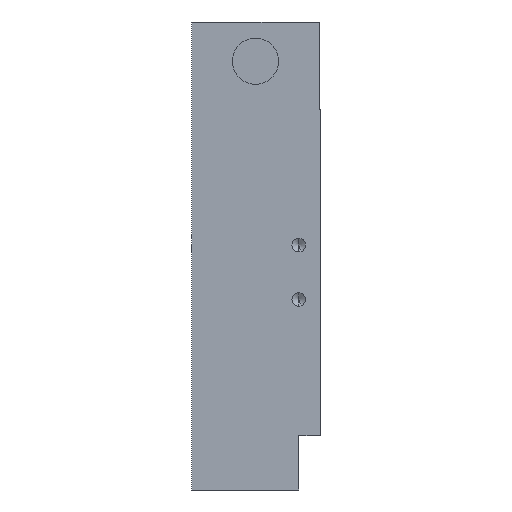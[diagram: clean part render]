
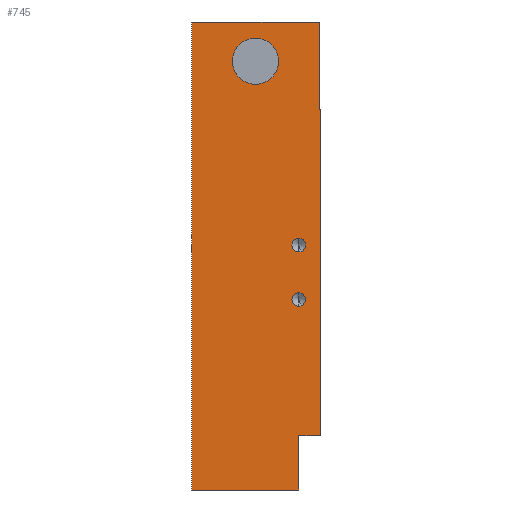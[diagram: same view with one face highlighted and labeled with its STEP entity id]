
A CAD part, left-side view. The second image highlights one B-rep face of the part: STEP entity #745.
In plain terms, the highlighted planar face has unit normal (-1, 0, 0).
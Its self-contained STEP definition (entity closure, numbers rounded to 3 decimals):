
#1 = PLANE ( 'NONE',  #821 ) ;
#7 = ORIENTED_EDGE ( 'NONE', *, *, #969, .F. ) ;
#19 = CARTESIAN_POINT ( 'NONE',  ( -59., 0.2, 27. ) ) ;
#24 = VERTEX_POINT ( 'NONE', #1138 ) ;
#28 = CARTESIAN_POINT ( 'NONE',  ( -59., 4., -9.25 ) ) ;
#39 = VERTEX_POINT ( 'NONE', #267 ) ;
#47 = CARTESIAN_POINT ( 'NONE',  ( -59., 23.7, -43. ) ) ;
#57 = VERTEX_POINT ( 'NONE', #301 ) ;
#77 = LINE ( 'NONE', #1443, #944 ) ;
#78 = VERTEX_POINT ( 'NONE', #908 ) ;
#93 = CARTESIAN_POINT ( 'NONE',  ( -59., 4., -8. ) ) ;
#100 = CARTESIAN_POINT ( 'NONE',  ( -59., 0., -33. ) ) ;
#112 = EDGE_CURVE ( 'NONE', #729, #172, #1550, .T. ) ;
#113 = DIRECTION ( 'NONE',  ( 0., -1., 0. ) ) ;
#137 = ORIENTED_EDGE ( 'NONE', *, *, #804, .F. ) ;
#144 = EDGE_CURVE ( 'NONE', #24, #820, #936, .T. ) ;
#169 = CARTESIAN_POINT ( 'NONE',  ( -59., 23.7, 43. ) ) ;
#172 = VERTEX_POINT ( 'NONE', #672 ) ;
#187 = DIRECTION ( 'NONE',  ( 0., 0., 1. ) ) ;
#215 = DIRECTION ( 'NONE',  ( -1., 0., 0. ) ) ;
#240 = ORIENTED_EDGE ( 'NONE', *, *, #1024, .F. ) ;
#267 = CARTESIAN_POINT ( 'NONE',  ( -59., 0.2, 43. ) ) ;
#293 = LINE ( 'NONE', #47, #1063 ) ;
#294 = CARTESIAN_POINT ( 'NONE',  ( -59., 23.7, -43. ) ) ;
#301 = CARTESIAN_POINT ( 'NONE',  ( -59., 11.95, 40.05 ) ) ;
#306 = FACE_BOUND ( 'NONE', #310, .T. ) ;
#310 = EDGE_LOOP ( 'NONE', ( #462, #240 ) ) ;
#350 = CARTESIAN_POINT ( 'NONE',  ( -59., 11.95, 35.8 ) ) ;
#354 = EDGE_LOOP ( 'NONE', ( #1270, #1517 ) ) ;
#359 = CARTESIAN_POINT ( 'NONE',  ( -59., 23.7, 43. ) ) ;
#364 = EDGE_CURVE ( 'NONE', #24, #1190, #560, .T. ) ;
#378 = CARTESIAN_POINT ( 'NONE',  ( -59., 4., 0.75 ) ) ;
#387 = ORIENTED_EDGE ( 'NONE', *, *, #402, .F. ) ;
#395 = ORIENTED_EDGE ( 'NONE', *, *, #144, .F. ) ;
#397 = EDGE_CURVE ( 'NONE', #1436, #956, #984, .T. ) ;
#402 = EDGE_CURVE ( 'NONE', #39, #729, #77, .T. ) ;
#414 = CARTESIAN_POINT ( 'NONE',  ( -59., 0.2, 27. ) ) ;
#456 = DIRECTION ( 'NONE',  ( 0., 0., -1. ) ) ;
#462 = ORIENTED_EDGE ( 'NONE', *, *, #569, .F. ) ;
#471 = EDGE_LOOP ( 'NONE', ( #395, #1289, #1261, #1249, #387, #602, #137, #1188 ) ) ;
#518 = ORIENTED_EDGE ( 'NONE', *, *, #1104, .F. ) ;
#537 = DIRECTION ( 'NONE',  ( 0., -1., 0. ) ) ;
#560 = LINE ( 'NONE', #1308, #1246 ) ;
#569 = EDGE_CURVE ( 'NONE', #743, #57, #1224, .T. ) ;
#594 = VERTEX_POINT ( 'NONE', #1220 ) ;
#598 = DIRECTION ( 'NONE',  ( -1., 0., 0. ) ) ;
#602 = ORIENTED_EDGE ( 'NONE', *, *, #616, .F. ) ;
#616 = EDGE_CURVE ( 'NONE', #78, #39, #1464, .T. ) ;
#626 = LINE ( 'NONE', #1368, #696 ) ;
#646 = CARTESIAN_POINT ( 'NONE',  ( -59., 23.7, 43. ) ) ;
#654 = AXIS2_PLACEMENT_3D ( 'NONE', #1077, #1557, #1578 ) ;
#665 = DIRECTION ( 'NONE',  ( 0., 0., 1. ) ) ;
#669 = CARTESIAN_POINT ( 'NONE',  ( -59., 4., -43. ) ) ;
#672 = CARTESIAN_POINT ( 'NONE',  ( -59., 0., 27. ) ) ;
#684 = DIRECTION ( 'NONE',  ( 0., 0., -1. ) ) ;
#685 = DIRECTION ( 'NONE',  ( -1., 0., 0. ) ) ;
#696 = VECTOR ( 'NONE', #1260, 1000. ) ;
#707 = DIRECTION ( 'NONE',  ( -1., 0., 0. ) ) ;
#722 = VECTOR ( 'NONE', #684, 1000. ) ;
#727 = AXIS2_PLACEMENT_3D ( 'NONE', #93, #215, #1574 ) ;
#729 = VERTEX_POINT ( 'NONE', #19 ) ;
#743 = VERTEX_POINT ( 'NONE', #1234 ) ;
#745 = ADVANCED_FACE ( 'NONE', ( #912, #1528, #306, #1564 ), #1, .F. ) ;
#748 = DIRECTION ( 'NONE',  ( 0., 0., -1. ) ) ;
#755 = VERTEX_POINT ( 'NONE', #294 ) ;
#796 = EDGE_CURVE ( 'NONE', #755, #820, #293, .T. ) ;
#804 = EDGE_CURVE ( 'NONE', #755, #78, #1206, .T. ) ;
#809 = AXIS2_PLACEMENT_3D ( 'NONE', #910, #685, #187 ) ;
#820 = VERTEX_POINT ( 'NONE', #1387 ) ;
#821 = AXIS2_PLACEMENT_3D ( 'NONE', #646, #1245, #748 ) ;
#837 = CIRCLE ( 'NONE', #1279, 4.25 ) ;
#838 = DIRECTION ( 'NONE',  ( -1., 0., 0. ) ) ;
#843 = DIRECTION ( 'NONE',  ( 0., 0., -1. ) ) ;
#882 = AXIS2_PLACEMENT_3D ( 'NONE', #974, #838, #843 ) ;
#885 = EDGE_CURVE ( 'NONE', #1190, #172, #626, .T. ) ;
#895 = VECTOR ( 'NONE', #113, 1000. ) ;
#908 = CARTESIAN_POINT ( 'NONE',  ( -59., 23.7, 43. ) ) ;
#910 = CARTESIAN_POINT ( 'NONE',  ( -59., 4., 2. ) ) ;
#912 = FACE_BOUND ( 'NONE', #1198, .T. ) ;
#936 = LINE ( 'NONE', #669, #722 ) ;
#944 = VECTOR ( 'NONE', #1196, 1000. ) ;
#956 = VERTEX_POINT ( 'NONE', #1060 ) ;
#969 = EDGE_CURVE ( 'NONE', #594, #1281, #1513, .T. ) ;
#974 = CARTESIAN_POINT ( 'NONE',  ( -59., 11.95, 35.8 ) ) ;
#984 = CIRCLE ( 'NONE', #654, 1.25 ) ;
#1003 = AXIS2_PLACEMENT_3D ( 'NONE', #1312, #707, #1317 ) ;
#1024 = EDGE_CURVE ( 'NONE', #57, #743, #837, .T. ) ;
#1060 = CARTESIAN_POINT ( 'NONE',  ( -59., 4., -6.75 ) ) ;
#1063 = VECTOR ( 'NONE', #1146, 1000. ) ;
#1077 = CARTESIAN_POINT ( 'NONE',  ( -59., 4., -8. ) ) ;
#1104 = EDGE_CURVE ( 'NONE', #1281, #594, #1419, .T. ) ;
#1138 = CARTESIAN_POINT ( 'NONE',  ( -59., 4., -33. ) ) ;
#1141 = EDGE_CURVE ( 'NONE', #956, #1436, #1437, .T. ) ;
#1146 = DIRECTION ( 'NONE',  ( 0., -1., 0. ) ) ;
#1188 = ORIENTED_EDGE ( 'NONE', *, *, #796, .T. ) ;
#1190 = VERTEX_POINT ( 'NONE', #100 ) ;
#1196 = DIRECTION ( 'NONE',  ( 0., 0., -1. ) ) ;
#1198 = EDGE_LOOP ( 'NONE', ( #7, #518 ) ) ;
#1206 = LINE ( 'NONE', #169, #1418 ) ;
#1220 = CARTESIAN_POINT ( 'NONE',  ( -59., 4., 3.25 ) ) ;
#1224 = CIRCLE ( 'NONE', #882, 4.25 ) ;
#1228 = VECTOR ( 'NONE', #537, 1000. ) ;
#1234 = CARTESIAN_POINT ( 'NONE',  ( -59., 11.95, 31.55 ) ) ;
#1245 = DIRECTION ( 'NONE',  ( 1., 0., 0. ) ) ;
#1246 = VECTOR ( 'NONE', #1555, 1000. ) ;
#1249 = ORIENTED_EDGE ( 'NONE', *, *, #112, .F. ) ;
#1260 = DIRECTION ( 'NONE',  ( 0., 0., 1. ) ) ;
#1261 = ORIENTED_EDGE ( 'NONE', *, *, #885, .T. ) ;
#1270 = ORIENTED_EDGE ( 'NONE', *, *, #1141, .F. ) ;
#1279 = AXIS2_PLACEMENT_3D ( 'NONE', #350, #598, #456 ) ;
#1281 = VERTEX_POINT ( 'NONE', #378 ) ;
#1289 = ORIENTED_EDGE ( 'NONE', *, *, #364, .T. ) ;
#1308 = CARTESIAN_POINT ( 'NONE',  ( -59., 4., -33. ) ) ;
#1312 = CARTESIAN_POINT ( 'NONE',  ( -59., 4., 2. ) ) ;
#1317 = DIRECTION ( 'NONE',  ( 0., 0., 1. ) ) ;
#1368 = CARTESIAN_POINT ( 'NONE',  ( -59., 0., 43. ) ) ;
#1387 = CARTESIAN_POINT ( 'NONE',  ( -59., 4., -43. ) ) ;
#1418 = VECTOR ( 'NONE', #665, 1000. ) ;
#1419 = CIRCLE ( 'NONE', #1003, 1.25 ) ;
#1436 = VERTEX_POINT ( 'NONE', #28 ) ;
#1437 = CIRCLE ( 'NONE', #727, 1.25 ) ;
#1443 = CARTESIAN_POINT ( 'NONE',  ( -59., 0.2, 43. ) ) ;
#1464 = LINE ( 'NONE', #359, #895 ) ;
#1513 = CIRCLE ( 'NONE', #809, 1.25 ) ;
#1517 = ORIENTED_EDGE ( 'NONE', *, *, #397, .F. ) ;
#1528 = FACE_BOUND ( 'NONE', #354, .T. ) ;
#1550 = LINE ( 'NONE', #414, #1228 ) ;
#1555 = DIRECTION ( 'NONE',  ( 0., -1., 0. ) ) ;
#1557 = DIRECTION ( 'NONE',  ( -1., 0., 0. ) ) ;
#1564 = FACE_OUTER_BOUND ( 'NONE', #471, .T. ) ;
#1574 = DIRECTION ( 'NONE',  ( 0., 0., 1. ) ) ;
#1578 = DIRECTION ( 'NONE',  ( 0., 0., 1. ) ) ;
